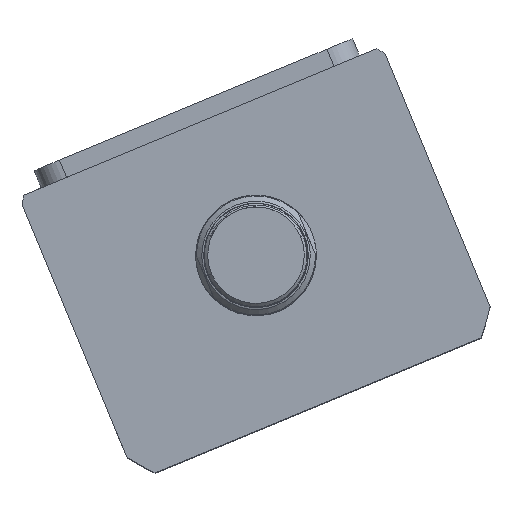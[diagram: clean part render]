
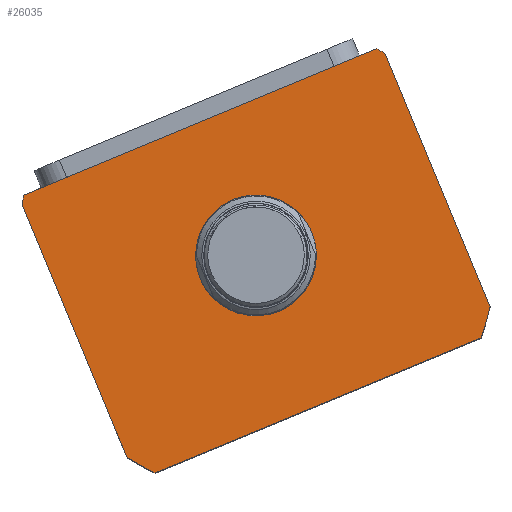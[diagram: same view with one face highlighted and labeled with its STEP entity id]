
A CAD part, top view. The second image highlights one B-rep face of the part: STEP entity #26035.
In plain terms, the highlighted planar face has unit normal (0, 0, 1) as drawn and (0, 0, -1) by its records, which use the part's own axes.
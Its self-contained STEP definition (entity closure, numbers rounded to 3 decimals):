
#359 = DIRECTION ( 'NONE',  ( 1., 0., 0. ) ) ;
#803 = EDGE_CURVE ( 'NONE', #8560, #22442, #11535, .T. ) ;
#1476 = CARTESIAN_POINT ( 'NONE',  ( 0., 2.5, 0. ) ) ;
#1512 = CIRCLE ( 'NONE', #19972, 69.5 ) ;
#2134 = CARTESIAN_POINT ( 'NONE',  ( 57., -37.265, 0. ) ) ;
#2601 = VERTEX_POINT ( 'NONE', #2134 ) ;
#2895 = AXIS2_PLACEMENT_3D ( 'NONE', #18591, #25165, #12221 ) ;
#3347 = VECTOR ( 'NONE', #19226, 1000. ) ;
#3679 = DIRECTION ( 'NONE',  ( 1., 0., 0. ) ) ;
#4367 = DIRECTION ( 'NONE',  ( 0., 1., 0. ) ) ;
#4735 = CARTESIAN_POINT ( 'NONE',  ( -51.198, -44.5, 0. ) ) ;
#5316 = CIRCLE ( 'NONE', #22436, 69.5 ) ;
#5614 = PLANE ( 'NONE',  #2895 ) ;
#5696 = DIRECTION ( 'NONE',  ( 0., 0., 1. ) ) ;
#6080 = EDGE_LOOP ( 'NONE', ( #11940, #26888 ) ) ;
#6240 = CARTESIAN_POINT ( 'NONE',  ( -57., 44.5, 0. ) ) ;
#6485 = EDGE_CURVE ( 'NONE', #11671, #26415, #16886, .T. ) ;
#6563 = CARTESIAN_POINT ( 'NONE',  ( 57., 44.5, 0. ) ) ;
#6795 = DIRECTION ( 'NONE',  ( 0., 0., 1. ) ) ;
#7361 = ORIENTED_EDGE ( 'NONE', *, *, #19345, .F. ) ;
#7924 = AXIS2_PLACEMENT_3D ( 'NONE', #18682, #5696, #20871 ) ;
#8560 = VERTEX_POINT ( 'NONE', #9598 ) ;
#8953 = VERTEX_POINT ( 'NONE', #14135 ) ;
#9018 = FACE_BOUND ( 'NONE', #6080, .T. ) ;
#9598 = CARTESIAN_POINT ( 'NONE',  ( 17.5, 2.5, 0. ) ) ;
#10502 = LINE ( 'NONE', #6240, #3347 ) ;
#10678 = CARTESIAN_POINT ( 'NONE',  ( 0., 2.5, 0. ) ) ;
#11535 = CIRCLE ( 'NONE', #12172, 17.5 ) ;
#11592 = EDGE_LOOP ( 'NONE', ( #7361, #20074, #14255, #27157, #26837, #24141, #14622, #20872 ) ) ;
#11671 = VERTEX_POINT ( 'NONE', #23870 ) ;
#11836 = DIRECTION ( 'NONE',  ( 0., 0., 1. ) ) ;
#11940 = ORIENTED_EDGE ( 'NONE', *, *, #803, .T. ) ;
#12160 = CARTESIAN_POINT ( 'NONE',  ( 55.374, 44.5, 0. ) ) ;
#12172 = AXIS2_PLACEMENT_3D ( 'NONE', #17644, #25881, #359 ) ;
#12221 = DIRECTION ( 'NONE',  ( 1., 0., 0. ) ) ;
#12576 = VERTEX_POINT ( 'NONE', #18138 ) ;
#12765 = VECTOR ( 'NONE', #4367, 1000. ) ;
#12871 = DIRECTION ( 'NONE',  ( 1., 0., 0. ) ) ;
#13048 = EDGE_CURVE ( 'NONE', #23062, #12576, #10502, .T. ) ;
#13053 = EDGE_CURVE ( 'NONE', #26415, #15643, #20660, .T. ) ;
#13931 = CARTESIAN_POINT ( 'NONE',  ( 57., 42.265, 0. ) ) ;
#13973 = AXIS2_PLACEMENT_3D ( 'NONE', #24775, #11836, #26957 ) ;
#14135 = CARTESIAN_POINT ( 'NONE',  ( -57., 42.265, 0. ) ) ;
#14255 = ORIENTED_EDGE ( 'NONE', *, *, #25541, .F. ) ;
#14622 = ORIENTED_EDGE ( 'NONE', *, *, #17042, .F. ) ;
#15643 = VERTEX_POINT ( 'NONE', #23570 ) ;
#16487 = CIRCLE ( 'NONE', #13973, 69.5 ) ;
#16638 = EDGE_CURVE ( 'NONE', #22442, #8560, #18209, .T. ) ;
#16696 = DIRECTION ( 'NONE',  ( 0., 0., 1. ) ) ;
#16886 = CIRCLE ( 'NONE', #27541, 69.5 ) ;
#17042 = EDGE_CURVE ( 'NONE', #12576, #8953, #5316, .T. ) ;
#17133 = VECTOR ( 'NONE', #26168, 1000. ) ;
#17221 = VERTEX_POINT ( 'NONE', #13931 ) ;
#17644 = CARTESIAN_POINT ( 'NONE',  ( 0., 2.5, 0. ) ) ;
#18138 = CARTESIAN_POINT ( 'NONE',  ( -55.374, 44.5, 0. ) ) ;
#18209 = CIRCLE ( 'NONE', #7924, 17.5 ) ;
#18591 = CARTESIAN_POINT ( 'NONE',  ( 0., 0., 0. ) ) ;
#18682 = CARTESIAN_POINT ( 'NONE',  ( 0., 2.5, 0. ) ) ;
#18794 = CARTESIAN_POINT ( 'NONE',  ( -17.5, 2.5, 0. ) ) ;
#19009 = EDGE_CURVE ( 'NONE', #2601, #17221, #24968, .T. ) ;
#19226 = DIRECTION ( 'NONE',  ( -1., 0., 0. ) ) ;
#19345 = EDGE_CURVE ( 'NONE', #17221, #23062, #16487, .T. ) ;
#19764 = CARTESIAN_POINT ( 'NONE',  ( 0., 2.5, 0. ) ) ;
#19960 = VECTOR ( 'NONE', #21420, 1000. ) ;
#19972 = AXIS2_PLACEMENT_3D ( 'NONE', #10678, #25821, #12871 ) ;
#20074 = ORIENTED_EDGE ( 'NONE', *, *, #19009, .F. ) ;
#20660 = LINE ( 'NONE', #23580, #19960 ) ;
#20871 = DIRECTION ( 'NONE',  ( 1., 0., 0. ) ) ;
#20872 = ORIENTED_EDGE ( 'NONE', *, *, #13048, .F. ) ;
#21420 = DIRECTION ( 'NONE',  ( 1., 0., 0. ) ) ;
#21948 = DIRECTION ( 'NONE',  ( 1., 0., 0. ) ) ;
#22436 = AXIS2_PLACEMENT_3D ( 'NONE', #19764, #6795, #21948 ) ;
#22442 = VERTEX_POINT ( 'NONE', #18794 ) ;
#23062 = VERTEX_POINT ( 'NONE', #12160 ) ;
#23547 = LINE ( 'NONE', #23968, #17133 ) ;
#23570 = CARTESIAN_POINT ( 'NONE',  ( 51.198, -44.5, 0. ) ) ;
#23580 = CARTESIAN_POINT ( 'NONE',  ( -57., -44.5, 0. ) ) ;
#23870 = CARTESIAN_POINT ( 'NONE',  ( -57., -37.265, 0. ) ) ;
#23968 = CARTESIAN_POINT ( 'NONE',  ( -57., 44.5, 0. ) ) ;
#24141 = ORIENTED_EDGE ( 'NONE', *, *, #26298, .F. ) ;
#24775 = CARTESIAN_POINT ( 'NONE',  ( 0., 2.5, 0. ) ) ;
#24968 = LINE ( 'NONE', #6563, #12765 ) ;
#25165 = DIRECTION ( 'NONE',  ( 0., 0., 1. ) ) ;
#25541 = EDGE_CURVE ( 'NONE', #15643, #2601, #1512, .T. ) ;
#25600 = FACE_OUTER_BOUND ( 'NONE', #11592, .T. ) ;
#25821 = DIRECTION ( 'NONE',  ( 0., 0., 1. ) ) ;
#25881 = DIRECTION ( 'NONE',  ( 0., 0., 1. ) ) ;
#26035 = ADVANCED_FACE ( 'NONE', ( #9018, #25600 ), #5614, .F. ) ;
#26168 = DIRECTION ( 'NONE',  ( 0., -1., 0. ) ) ;
#26298 = EDGE_CURVE ( 'NONE', #8953, #11671, #23547, .T. ) ;
#26415 = VERTEX_POINT ( 'NONE', #4735 ) ;
#26837 = ORIENTED_EDGE ( 'NONE', *, *, #6485, .F. ) ;
#26888 = ORIENTED_EDGE ( 'NONE', *, *, #16638, .T. ) ;
#26957 = DIRECTION ( 'NONE',  ( 1., 0., 0. ) ) ;
#27157 = ORIENTED_EDGE ( 'NONE', *, *, #13053, .F. ) ;
#27541 = AXIS2_PLACEMENT_3D ( 'NONE', #1476, #16696, #3679 ) ;
